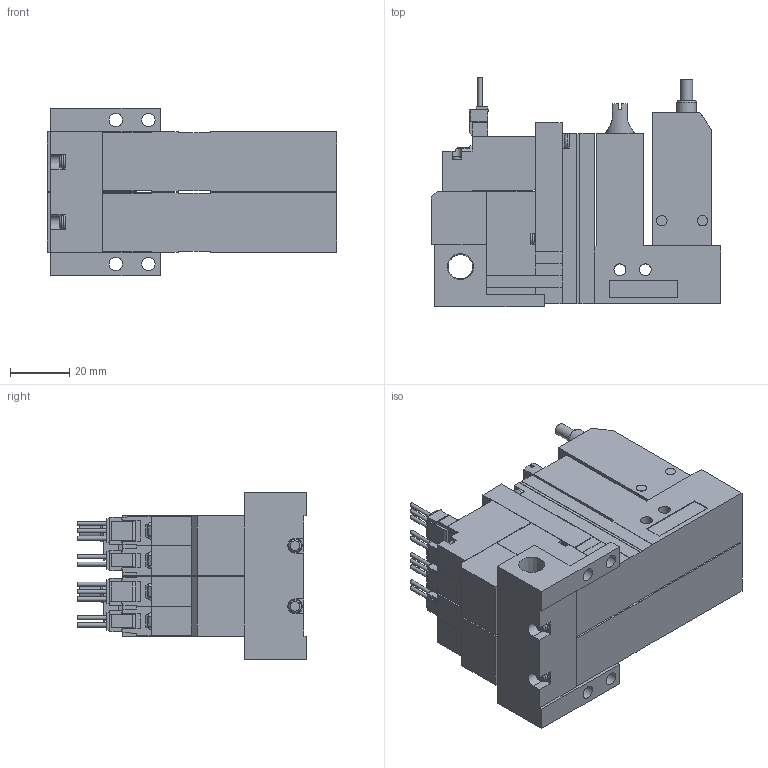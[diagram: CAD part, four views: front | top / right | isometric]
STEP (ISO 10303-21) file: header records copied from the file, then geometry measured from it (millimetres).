
FILE_DESCRIPTION(('STEP AP203'),'1');
FILE_NAME('ABS_ABPLC5WLR202.stp','2025-02-18T07:01:06',(' '),(' '),'Spatial InterOp 3D',' ',' ');
FILE_SCHEMA(('CONFIG_CONTROL_DESIGN'));
Length unit declared in the file: millimetre
Products named in the file (5): BMC22M※※※※ABS_ABPLC5WLR202; Solenoid valve W; Pressure sensor ABSLC; Unit LC; Base MR20R
Assembly tree (7 placements, depth 2):
  BMC22M※※※※ABS_ABPLC5WLR202
    Solenoid valve W  x2
    Pressure sensor ABSLC  x2
    Unit LC  x2
    Base MR20R
Bounding box: 97.6 x 77.45 x 56.5 mm (x, y, z)
Volume: 208957.6 mm3; surface area: 55971.3 mm2
Topology: 7 solids, 7 shells, 805 faces, 2159 edges, 1420 vertices
Faces by surface type: plane 682, cylinder 95, cone 16, torus 12
Full cylindrical faces by diameter (mm): 1.4 x10, 2.5 x2, 3 x8, 3.5 x12, 3.6 x2, 4 x6, 4.134 x2, 4.5 x4, 5.2 x2, 6 x2, 6.5 x2, 6.6 x2, 8.279 x1
Entity records: 13294 total; most frequent: CARTESIAN_POINT 2483, ORIENTED_EDGE 2142, DIRECTION 2098, EDGE_CURVE 1071, LINE 904, VECTOR 904, VERTEX_POINT 736, AXIS2_PLACEMENT_3D 597
